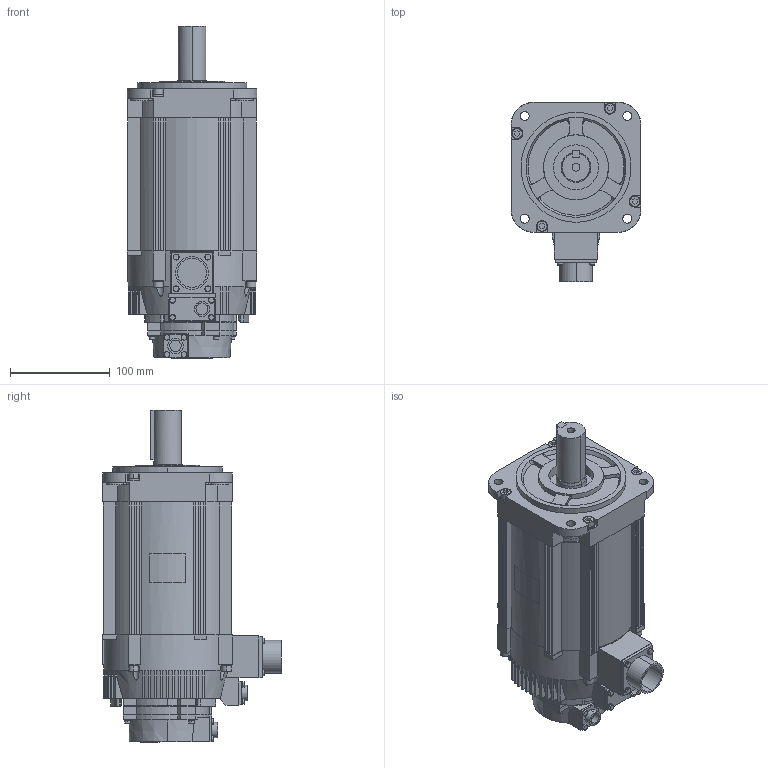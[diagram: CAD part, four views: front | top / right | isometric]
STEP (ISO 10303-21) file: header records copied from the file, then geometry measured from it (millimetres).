
FILE_DESCRIPTION (( 'STEP AP203' ), '1' );
FILE_NAME ('sgm7a_40a_a6c.STEP', '2016-02-18T23:40:45', ( '匠エンジニアリング山之内' ), ( 'TAKUMI-Engniaring' ), 'SwSTEP 2.0', 'SolidWorks 2006303', '' );
FILE_SCHEMA (( 'CONFIG_CONTROL_DESIGN' ));
Length unit declared in the file: millimetre
Products named in the file (3): sgm7a_40a_a6c_base; sgm7a_40a_a6c_key; sgm7a_40a_a6c
Assembly tree (2 placements, depth 2):
  sgm7a_40a_a6c
    sgm7a_40a_a6c_key
    sgm7a_40a_a6c_base
Bounding box: 130 x 179 x 332.1 mm (x, y, z)
Volume: 3459801.9 mm3; surface area: 221359.7 mm2
Topology: 2 solids, 2 shells, 832 faces, 2164 edges, 1426 vertices
Faces by surface type: plane 535, cylinder 245, cone 46, bspline 6
Entity records: 26430 total; most frequent: CARTESIAN_POINT 5266, DIRECTION 4386, ORIENTED_EDGE 4328, EDGE_CURVE 2164, AXIS2_PLACEMENT_3D 1505, VERTEX_POINT 1426, LINE 1376, VECTOR 1376
